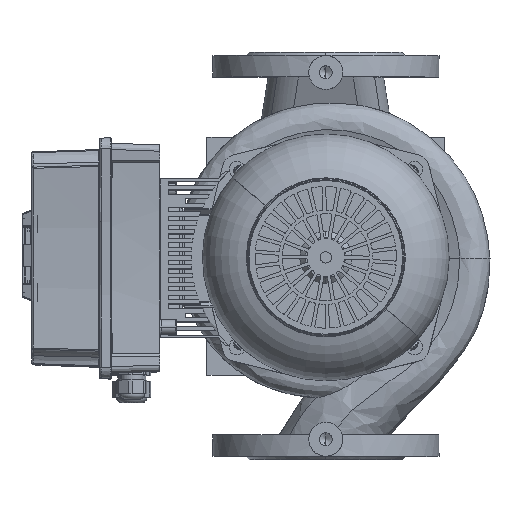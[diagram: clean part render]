
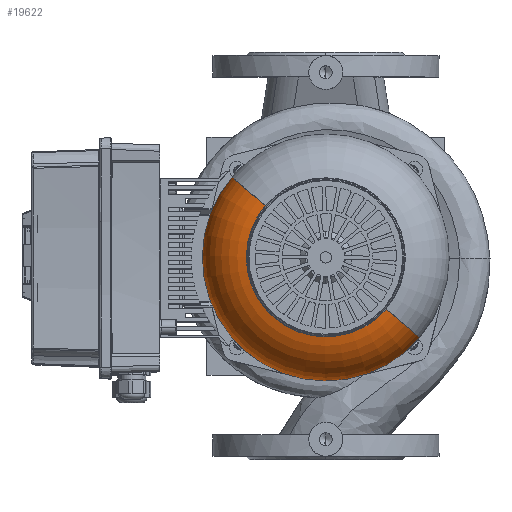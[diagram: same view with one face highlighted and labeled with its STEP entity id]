
A CAD part, top view. The second image highlights one B-rep face of the part: STEP entity #19622.
In plain terms, the highlighted toroidal (fillet/blend) face has major radius 59 mm and minor radius 50 mm.
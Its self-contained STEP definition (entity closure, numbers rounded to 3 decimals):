
#19622=ADVANCED_FACE('NONE',(#42312),#42313,.T.);
#42312=FACE_OUTER_BOUND('',#64581,.T.);
#42313=TOROIDAL_SURFACE('',#64582,59.0,50.0);
#64581=EDGE_LOOP('',(#93392,#93393,#93394,#93395));
#64582=AXIS2_PLACEMENT_3D('',#93396,#93397,#93398);
#93392=ORIENTED_EDGE('',*,*,#114625,.F.);
#93393=ORIENTED_EDGE('',*,*,#114624,.T.);
#93394=ORIENTED_EDGE('',*,*,#114626,.F.);
#93395=ORIENTED_EDGE('',*,*,#114627,.T.);
#93396=CARTESIAN_POINT('',(49.225,0.0,0.0));
#93397=DIRECTION('',(1.0,0.,0.));
#93398=DIRECTION('',(0.,0.,-1.0));
#114624=EDGE_CURVE('NONE',#142942,#142946,#142948,.T.);
#114625=EDGE_CURVE('',#142942,#142949,#142950,.T.);
#114626=EDGE_CURVE('',#142951,#142946,#142952,.T.);
#114627=EDGE_CURVE('NONE',#142951,#142949,#142953,.T.);
#142942=VERTEX_POINT('',#175932);
#142946=VERTEX_POINT('NONE',#175937);
#142948=CIRCLE('',#175940,109.);
#142949=VERTEX_POINT('NONE',#175941);
#142950=CIRCLE('',#175942,50.0);
#142951=VERTEX_POINT('',#175943);
#142952=CIRCLE('',#175944,50.0);
#142953=CIRCLE('',#175945,70.229);
#175932=CARTESIAN_POINT('',(49.225,0.,-109.));
#175937=CARTESIAN_POINT('',(49.225,0.,109.0));
#175940=AXIS2_PLACEMENT_3D('',#227009,#227010,#227011);
#175941=CARTESIAN_POINT('',(97.948,0.,-70.229));
#175942=AXIS2_PLACEMENT_3D('',#227012,#227013,#227014);
#175943=CARTESIAN_POINT('',(97.948,0.,70.229));
#175944=AXIS2_PLACEMENT_3D('',#227015,#227016,#227017);
#175945=AXIS2_PLACEMENT_3D('',#227018,#227019,#227020);
#227009=CARTESIAN_POINT('',(49.225,0.0,0.0));
#227010=DIRECTION('',(1.0,0.,0.));
#227011=DIRECTION('',(0.,0.,-1.0));
#227012=CARTESIAN_POINT('',(49.225,0.,-59.0));
#227013=DIRECTION('',(0.,-1.0,0.));
#227014=DIRECTION('',(0.,0.,-1.0));
#227015=CARTESIAN_POINT('',(49.225,0.,59.0));
#227016=DIRECTION('',(0.,-1.0,0.));
#227017=DIRECTION('',(0.,0.,1.0));
#227018=CARTESIAN_POINT('',(97.948,0.0,0.0));
#227019=DIRECTION('',(-1.0,0.,0.));
#227020=DIRECTION('',(0.,0.,1.0));
